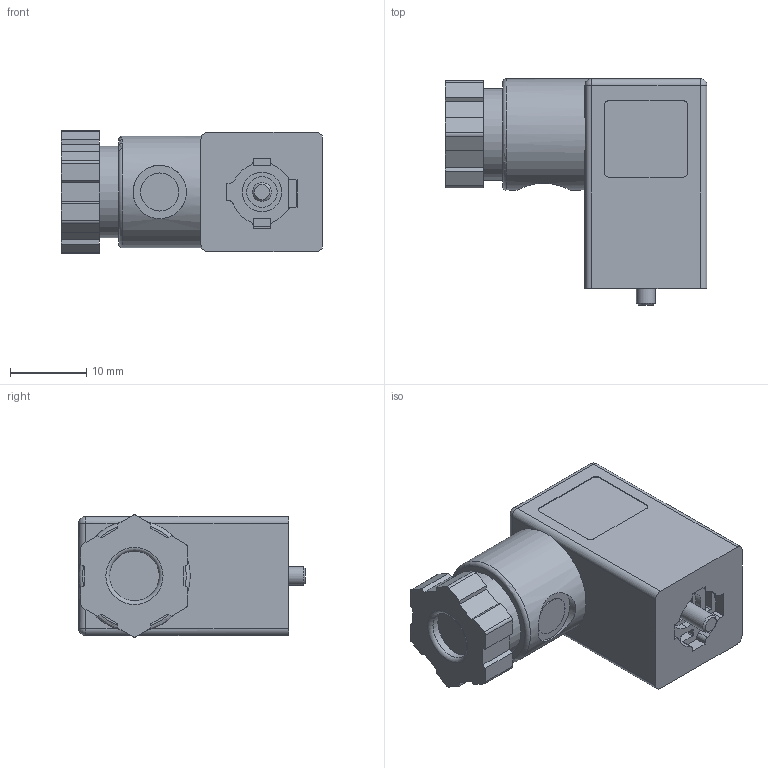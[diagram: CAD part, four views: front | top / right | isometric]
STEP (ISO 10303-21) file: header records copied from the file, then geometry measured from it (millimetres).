
FILE_DESCRIPTION(/* description */ (''),/* implementation_level */ '2;1');
FILE_NAME(/* name */ 'VC-CC8.21-0.220-K.stp',/* time_stamp */ '2017-10-18T15:41:01+02:00',/* author */ (''),/* organization */ (''),/* preprocessor_version */ 'ST-DEVELOPER v16',/* originating_system */ 'SIEMENS PLM Software NX 10.0',/* authorisation */ '');
FILE_SCHEMA (('AUTOMOTIVE_DESIGN { 1 0 10303 214 3 1 1 1 }'));
Length unit declared in the file: millimetre
Products named in the file (1): VC-CC8.21-0.220-K
Bounding box: 34.34 x 29.7 x 16.01 mm (x, y, z)
Volume: 9350.2 mm3; surface area: 3756.7 mm2
Topology: 1 solids, 1 shells, 243 faces, 650 edges, 427 vertices
Faces by surface type: plane 143, cylinder 79, sphere 6, bspline 6, torus 5, cone 4
Full cylindrical faces by diameter (mm): 2.5 x1, 5 x1, 6.5 x1, 7 x1, 7.2 x1, 12 x1, 14.6 x1
Entity records: 7989 total; most frequent: CARTESIAN_POINT 1885, ORIENTED_EDGE 1260, DIRECTION 1253, EDGE_CURVE 630, LINE 431, VECTOR 431, VERTEX_POINT 421, AXIS2_PLACEMENT_3D 411
